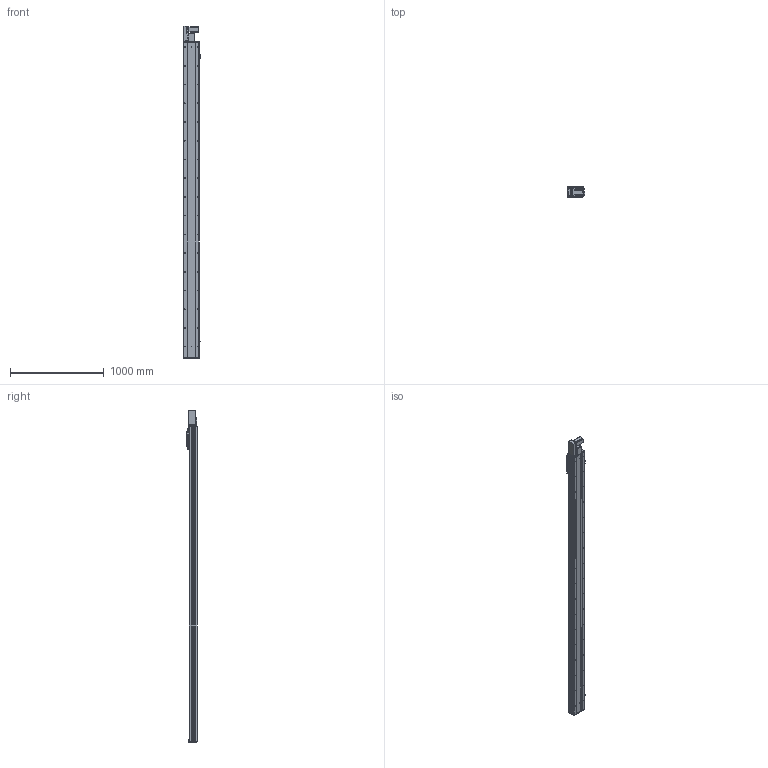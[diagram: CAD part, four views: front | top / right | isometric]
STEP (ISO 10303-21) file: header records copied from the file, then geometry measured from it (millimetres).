
FILE_DESCRIPTION (( 'STEP AP203' ), '1' );
FILE_NAME ('Y170CB-D105-S3050-BL-P400W.STEP', '2020-02-20T01:58:15', ( '微软用户' ), ( '微软中国' ), 'SwSTEP 2.0', 'SolidWorks 2017', '' );
FILE_SCHEMA (( 'CONFIG_CONTROL_DESIGN' ));
Length unit declared in the file: millimetre
Products named in the file (18): Y100-135俋离換覜ん--; 70CB-掛极-; --70CB --喘謫眊楊擘啣-; 70CB-耜裔啣-; Y170CB-陔俋离換覜結え---; 70C--詩湍揤踡え-; B-源倛裔啣; 70B喘謫眊----; 70CB--耜裔; 17B-耜蚾蟀諉啣----; Y1埴倛裔; 70C-雄赽釱-奻-; 0B-萇儂楊擘啣; Y170CB-D105-S3050-BL-P400W; 0C--雄赽釱俋欶-170; san松下电机400不带刹车----; 70CB-詩湍--; Y70俋欶BR----
Assembly tree (21 placements, depth 2):
  Y170CB-D105-S3050-BL-P400W
    B-源倛裔啣
    17B-耜蚾蟀諉啣----
    0B-萇儂楊擘啣
    san松下电机400不带刹车----
    Y70俋欶BR----
    70CB-掛极-
    --70CB --喘謫眊楊擘啣-
    70CB-耜裔啣-  x2
    70C--詩湍揤踡え-  x2
    70CB--耜裔
    70C-雄赽釱-奻-
    0C--雄赽釱俋欶-170
    70CB-詩湍--
    Y100-135俋离換覜ん--  x3
    Y170CB-陔俋离換覜結え---
    70B喘謫眊----
    Y1埴倛裔
Bounding box: 183.5 x 107 x 3547 mm (x, y, z)
Volume: 14609509.4 mm3; surface area: 5279980.2 mm2
Topology: 21 solids, 21 shells, 1087 faces, 2933 edges, 1946 vertices
Faces by surface type: cylinder 599, plane 464, cone 24
Entity records: 34948 total; most frequent: CARTESIAN_POINT 6456, DIRECTION 5686, ORIENTED_EDGE 5348, EDGE_CURVE 2674, AXIS2_PLACEMENT_3D 2104, VERTEX_POINT 1776, VECTOR 1478, LINE 1478
